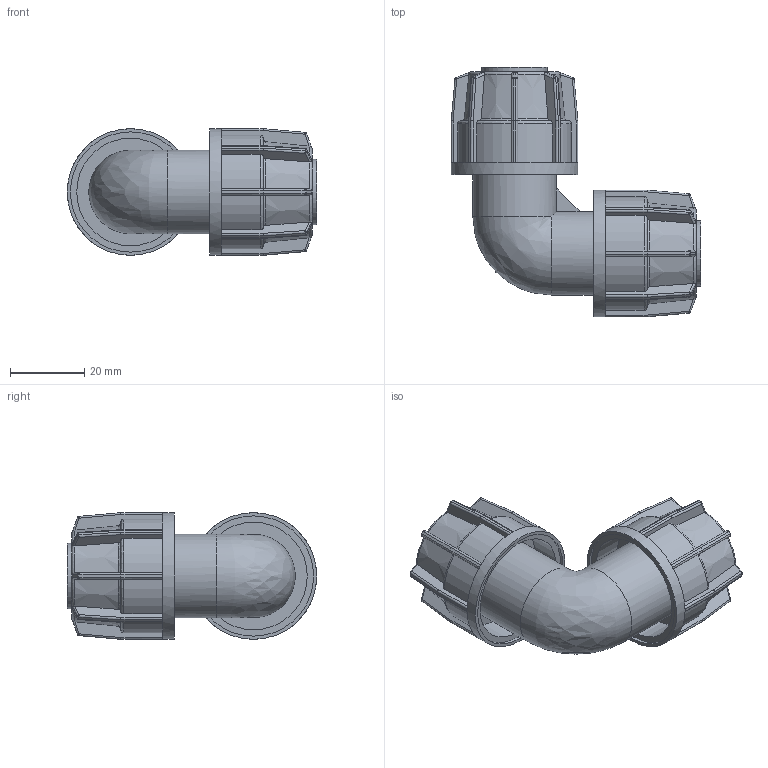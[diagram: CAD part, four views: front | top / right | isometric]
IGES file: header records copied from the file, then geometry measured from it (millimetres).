
Global section: file name: 040507016.ipt; native system: Autodesk Inventor 2015; preprocessor: unknown; author: KIM; date: 20180409.130643; units: millimetre
Bounding box: 67 x 67 x 34 mm (x, y, z)
Volume: 29292.4 mm3; surface area: 19670.5 mm2
Topology: 1 solids, 1 shells, 529 faces, 1265 edges, 731 vertices
Faces by surface type: plane 255, cylinder 150, sphere 64, revolution 43, cone 16, bspline 1
Full cylindrical faces by diameter (mm): 17.6 x2, 22.4 x2, 34 x2
